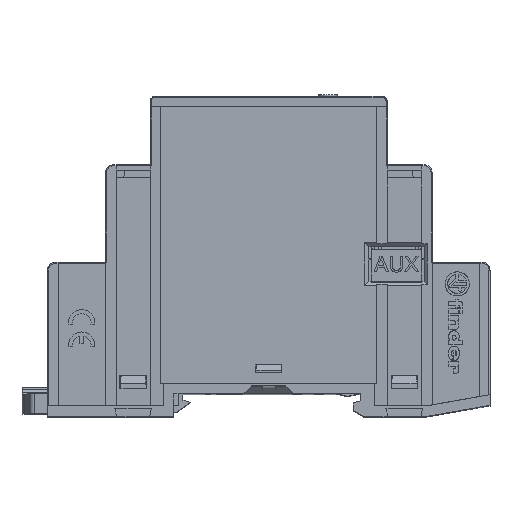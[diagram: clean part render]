
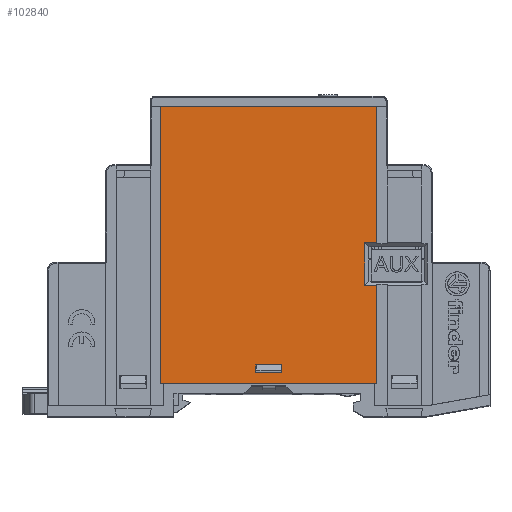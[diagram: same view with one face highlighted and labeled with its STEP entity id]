
A CAD part, top view. The second image highlights one B-rep face of the part: STEP entity #102840.
In plain terms, the highlighted planar face has unit normal (0, 0, 1).
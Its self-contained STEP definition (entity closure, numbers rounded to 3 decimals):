
#9799=LINE('',#166980,#23680);
#9816=LINE('',#167013,#23697);
#9869=LINE('',#167144,#23750);
#9911=LINE('',#167257,#23792);
#9913=LINE('',#167261,#23794);
#9914=LINE('',#167264,#23795);
#9915=LINE('',#167266,#23796);
#9916=LINE('',#167268,#23797);
#9917=LINE('',#167269,#23798);
#9918=LINE('',#167271,#23799);
#9919=LINE('',#167272,#23800);
#9920=LINE('',#167273,#23801);
#23680=VECTOR('',#136116,1000.);
#23697=VECTOR('',#136143,1000.);
#23750=VECTOR('',#136248,1000.);
#23792=VECTOR('',#136310,1000.);
#23794=VECTOR('',#136314,1000.);
#23795=VECTOR('',#136315,1000.);
#23796=VECTOR('',#136316,1000.);
#23797=VECTOR('',#136317,1000.);
#23798=VECTOR('',#136318,1000.);
#23799=VECTOR('',#136319,1000.);
#23800=VECTOR('',#136320,1000.);
#23801=VECTOR('',#136321,1000.);
#31359=PLANE('',#116155);
#51181=ORIENTED_EDGE('',*,*,#71017,.T.);
#51182=ORIENTED_EDGE('',*,*,#71018,.F.);
#51183=ORIENTED_EDGE('',*,*,#71019,.F.);
#51184=ORIENTED_EDGE('',*,*,#71020,.F.);
#51185=ORIENTED_EDGE('',*,*,#71015,.F.);
#51186=ORIENTED_EDGE('',*,*,#71021,.F.);
#51187=ORIENTED_EDGE('',*,*,#71022,.F.);
#51188=ORIENTED_EDGE('',*,*,#70888,.F.);
#51189=ORIENTED_EDGE('',*,*,#70905,.F.);
#51190=ORIENTED_EDGE('',*,*,#71023,.F.);
#51191=ORIENTED_EDGE('',*,*,#70970,.T.);
#51192=ORIENTED_EDGE('',*,*,#71024,.F.);
#70888=EDGE_CURVE('',#83350,#83351,#9799,.T.);
#70905=EDGE_CURVE('',#83362,#83350,#9816,.T.);
#70970=EDGE_CURVE('',#83414,#83413,#9869,.T.);
#71015=EDGE_CURVE('',#83444,#83445,#9911,.T.);
#71017=EDGE_CURVE('',#83446,#83447,#9913,.T.);
#71018=EDGE_CURVE('',#83448,#83447,#9914,.T.);
#71019=EDGE_CURVE('',#83449,#83448,#9915,.T.);
#71020=EDGE_CURVE('',#83446,#83449,#9916,.T.);
#71021=EDGE_CURVE('',#83450,#83444,#9917,.T.);
#71022=EDGE_CURVE('',#83351,#83450,#9918,.T.);
#71023=EDGE_CURVE('',#83414,#83362,#9919,.T.);
#71024=EDGE_CURVE('',#83445,#83413,#9920,.T.);
#83350=VERTEX_POINT('',#166979);
#83351=VERTEX_POINT('',#166981);
#83362=VERTEX_POINT('',#167014);
#83413=VERTEX_POINT('',#167143);
#83414=VERTEX_POINT('',#167145);
#83444=VERTEX_POINT('',#167256);
#83445=VERTEX_POINT('',#167258);
#83446=VERTEX_POINT('',#167262);
#83447=VERTEX_POINT('',#167263);
#83448=VERTEX_POINT('',#167265);
#83449=VERTEX_POINT('',#167267);
#83450=VERTEX_POINT('',#167270);
#92127=EDGE_LOOP('',(#51181,#51182,#51183,#51184));
#92128=EDGE_LOOP('',(#51185,#51186,#51187,#51188,#51189,#51190,#51191,#51192));
#97674=FACE_BOUND('',#92127,.T.);
#97675=FACE_BOUND('',#92128,.T.);
#102840=ADVANCED_FACE('',(#97674,#97675),#31359,.T.);
#116155=AXIS2_PLACEMENT_3D('',#167260,#136312,#136313);
#136116=DIRECTION('',(-1.,0.,0.));
#136143=DIRECTION('',(0.,-1.,0.));
#136248=DIRECTION('',(0.,-1.,0.));
#136310=DIRECTION('',(0.,-1.,0.));
#136312=DIRECTION('',(0.,0.,1.));
#136313=DIRECTION('',(1.,0.,0.));
#136314=DIRECTION('',(0.,-1.,0.));
#136315=DIRECTION('',(1.,0.,0.));
#136316=DIRECTION('',(0.,-1.,0.));
#136317=DIRECTION('',(-1.,0.,0.));
#136318=DIRECTION('',(1.,0.,0.));
#136319=DIRECTION('',(0.,-1.,0.));
#136320=DIRECTION('',(1.,0.,0.));
#136321=DIRECTION('',(-1.,0.,0.));
#166979=CARTESIAN_POINT('',(20.5,-20.3,-100.));
#166980=CARTESIAN_POINT('',(-20.501,-20.3,-100.));
#166981=CARTESIAN_POINT('',(18.2,-20.3,-100.));
#167013=CARTESIAN_POINT('',(20.5,5.5,-100.));
#167014=CARTESIAN_POINT('',(20.5,5.5,-100.));
#167143=CARTESIAN_POINT('',(-20.5,-47.,-100.));
#167144=CARTESIAN_POINT('',(-20.5,5.5,-100.));
#167145=CARTESIAN_POINT('',(-20.5,5.5,-100.));
#167256=CARTESIAN_POINT('',(20.5,-28.4,-100.));
#167257=CARTESIAN_POINT('',(20.5,5.5,-100.));
#167258=CARTESIAN_POINT('',(20.5,-47.,-100.));
#167260=CARTESIAN_POINT('',(-20.501,-47.001,-100.));
#167261=CARTESIAN_POINT('',(2.5,-43.5,-100.));
#167262=CARTESIAN_POINT('',(2.5,-43.5,-100.));
#167263=CARTESIAN_POINT('',(2.5,-45.,-100.));
#167264=CARTESIAN_POINT('',(-2.5,-45.,-100.));
#167265=CARTESIAN_POINT('',(-2.5,-45.,-100.));
#167266=CARTESIAN_POINT('',(-2.5,-43.5,-100.));
#167267=CARTESIAN_POINT('',(-2.5,-43.5,-100.));
#167268=CARTESIAN_POINT('',(2.5,-43.5,-100.));
#167269=CARTESIAN_POINT('',(-20.501,-28.4,-100.));
#167270=CARTESIAN_POINT('',(18.2,-28.4,-100.));
#167271=CARTESIAN_POINT('',(18.2,-47.001,-100.));
#167272=CARTESIAN_POINT('',(-20.5,5.5,-100.));
#167273=CARTESIAN_POINT('',(20.5,-47.,-100.));
